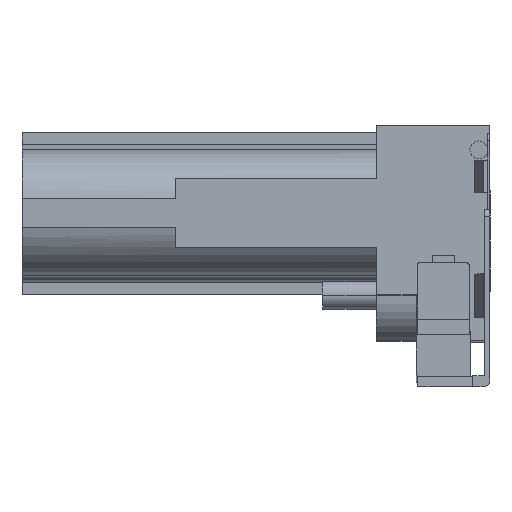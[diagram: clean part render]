
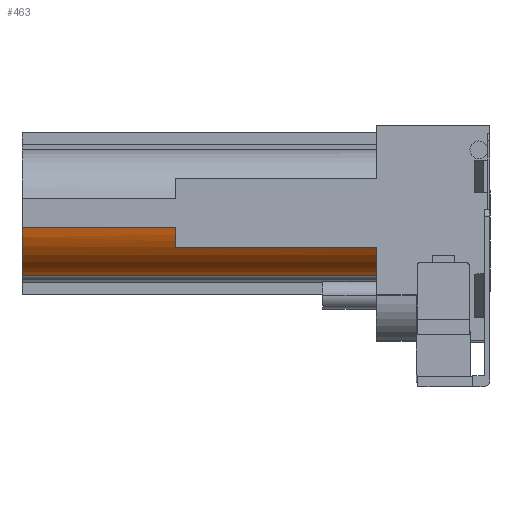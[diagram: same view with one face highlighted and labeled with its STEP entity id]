
A CAD part, front view. The second image highlights one B-rep face of the part: STEP entity #463.
In plain terms, the highlighted cylindrical face has radius 23 mm (diameter 46 mm), a partial arc.
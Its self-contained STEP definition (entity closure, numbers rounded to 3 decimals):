
#463 = ADVANCED_FACE ( 'NONE', ( #4152 ), #4153, .T. ) ;
#772 = EDGE_CURVE ( 'NONE', #6377, #6360, #4549, .T. ) ;
#773 = EDGE_CURVE ( 'NONE', #6361, #6360, #4552, .T. ) ;
#774 = EDGE_CURVE ( 'NONE', #6362, #6361, #4551, .T. ) ;
#775 = EDGE_CURVE ( 'NONE', #6362, #6365, #4555, .T. ) ;
#776 = EDGE_CURVE ( 'NONE', #6365, #6378, #4554, .T. ) ;
#787 = EDGE_CURVE ( 'NONE', #6378, #6377, #4576, .T. ) ;
#1126 = AXIS2_PLACEMENT_3D ( 'NONE', #3331, #3332, #3333 ) ;
#1203 = AXIS2_PLACEMENT_3D ( 'NONE', #4781, #4782, #4783 ) ;
#1204 = AXIS2_PLACEMENT_3D ( 'NONE', #4786, #4787, #4788 ) ;
#1207 = AXIS2_PLACEMENT_3D ( 'NONE', #4813, #4814, #4815 ) ;
#1751 = ORIENTED_EDGE ( 'NONE', *, *, #773, .T. ) ;
#1753 = ORIENTED_EDGE ( 'NONE', *, *, #774, .T. ) ;
#1759 = ORIENTED_EDGE ( 'NONE', *, *, #772, .F. ) ;
#1761 = ORIENTED_EDGE ( 'NONE', *, *, #775, .F. ) ;
#1769 = ORIENTED_EDGE ( 'NONE', *, *, #776, .F. ) ;
#1775 = ORIENTED_EDGE ( 'NONE', *, *, #787, .F. ) ;
#2130 = EDGE_LOOP ( 'NONE', ( #1769, #1761, #1753, #1751, #1759, #1775 ) ) ;
#3331 = CARTESIAN_POINT ( 'NONE',  ( -41.25, 263.596, 13.405 ) ) ;
#3332 = DIRECTION ( 'NONE',  ( -1., 0., 0. ) ) ;
#3333 = DIRECTION ( 'NONE',  ( 0., -1., 0. ) ) ;
#4152 = FACE_OUTER_BOUND ( 'NONE', #2130, .T. ) ;
#4153 = CYLINDRICAL_SURFACE ( 'NONE', #1126, 23. ) ;
#4549 = LINE ( 'NONE', #4779, #4550 ) ;
#4550 = VECTOR ( 'NONE', #4780, 1000. ) ;
#4551 = LINE ( 'NONE', #4784, #4553 ) ;
#4552 = CIRCLE ( 'NONE', #1203, 23. ) ;
#4553 = VECTOR ( 'NONE', #4785, 1000. ) ;
#4554 = LINE ( 'NONE', #4789, #4556 ) ;
#4555 = CIRCLE ( 'NONE', #1204, 23. ) ;
#4556 = VECTOR ( 'NONE', #4790, 1000. ) ;
#4576 = CIRCLE ( 'NONE', #1207, 23. ) ;
#4779 = CARTESIAN_POINT ( 'NONE',  ( -41.25, 258.377, -8.995 ) ) ;
#4780 = DIRECTION ( 'NONE',  ( -1., 0., 0. ) ) ;
#4781 = CARTESIAN_POINT ( 'NONE',  ( -169.95, 263.596, 13.405 ) ) ;
#4782 = DIRECTION ( 'NONE',  ( 1., 0., 0. ) ) ;
#4783 = DIRECTION ( 'NONE',  ( 0., -1., 0. ) ) ;
#4784 = CARTESIAN_POINT ( 'NONE',  ( -41.25, 241.173, 8.284 ) ) ;
#4785 = DIRECTION ( 'NONE',  ( -1., 0., 0. ) ) ;
#4786 = CARTESIAN_POINT ( 'NONE',  ( -114.25, 263.596, 13.405 ) ) ;
#4787 = DIRECTION ( 'NONE',  ( 1., 0., 0. ) ) ;
#4788 = DIRECTION ( 'NONE',  ( 0., -1., 0. ) ) ;
#4789 = CARTESIAN_POINT ( 'NONE',  ( -114.25, 244.173, 1.086 ) ) ;
#4790 = DIRECTION ( 'NONE',  ( 1., 0., 0. ) ) ;
#4813 = CARTESIAN_POINT ( 'NONE',  ( -41.25, 263.596, 13.405 ) ) ;
#4814 = DIRECTION ( 'NONE',  ( 1., 0., 0. ) ) ;
#4815 = DIRECTION ( 'NONE',  ( 0., -1., 0. ) ) ;
#5316 = CARTESIAN_POINT ( 'NONE',  ( -169.95, 258.377, -8.995 ) ) ;
#5317 = CARTESIAN_POINT ( 'NONE',  ( -169.95, 241.173, 8.284 ) ) ;
#5318 = CARTESIAN_POINT ( 'NONE',  ( -114.25, 241.173, 8.284 ) ) ;
#5321 = CARTESIAN_POINT ( 'NONE',  ( -114.25, 244.173, 1.086 ) ) ;
#5333 = CARTESIAN_POINT ( 'NONE',  ( -41.25, 258.377, -8.995 ) ) ;
#5334 = CARTESIAN_POINT ( 'NONE',  ( -41.25, 244.173, 1.086 ) ) ;
#6360 = VERTEX_POINT ( 'NONE', #5316 ) ;
#6361 = VERTEX_POINT ( 'NONE', #5317 ) ;
#6362 = VERTEX_POINT ( 'NONE', #5318 ) ;
#6365 = VERTEX_POINT ( 'NONE', #5321 ) ;
#6377 = VERTEX_POINT ( 'NONE', #5333 ) ;
#6378 = VERTEX_POINT ( 'NONE', #5334 ) ;
